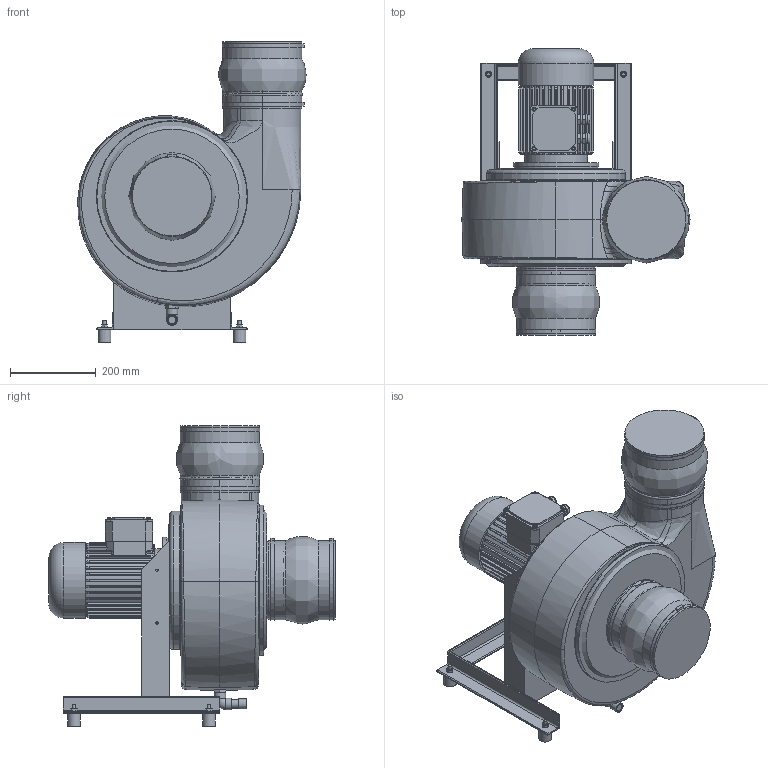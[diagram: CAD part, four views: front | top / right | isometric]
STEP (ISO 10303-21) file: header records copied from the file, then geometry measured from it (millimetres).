
FILE_DESCRIPTION( ( 'Unknown' ), '1' );
FILE_NAME( 'K:/HOME/HLT_CAD/Z/HF/3D/Zusammenstellung/HFR/HFR 15_17/HFR...-15D/DS_1/HFR_180-15D/GR360/HFR_180-15D_DS1_GR_360_090.stp', 'Unknown', ( 'Unknown' ), ( 'Unknown' ), 'PSStep 17.0.49', 'Unknown', ' ' );
FILE_SCHEMA( ( 'AUTOMOTIVE_DESIGN { 1 0 10303 214 1 1 1 1 }' ) );
Length unit declared in the file: millimetre
Products named in the file (30): 5294_Gestell; Angle 40x40x4-oa0; Angle 40x40x4-oa1; Angle 40x40x4-oa2; 5294_Gehäusebefestigung-oa3; 6203_Kugelmanschette; 6203_Manschettenband_HFR180; 6203_Schelle_HFR180; Laufrad 180; Nabe 160-315; Deckscheibe 180; 1108_18; 5217_Laufradbefestigung; 5217_Drehteil; 5217_Flachdichtung_Ø32; 5217_Schraubkappe; 5217_Flachdichtung_Ø63; 5159_Kondensatablauf_125-315; Winkel_90°_G1_2; Stopfen_G1_2-oa4; Rohr_20; Verschlusskappe_20; Assem1; 180 mit laufrad HF R 180; Schwidä_30x30; 6kant_M8; 6611_Motorring_Bg80; B5_90L_2HIHI; HFR 180_GR_abgeschn
Assembly tree (37 placements, depth 3):
  Assem1
    180 mit laufrad HF R 180
    Schwidä_30x30  x4
    6kant_M8  x4
    6611_Motorring_Bg80
    B5_90L_2HIHI
    HFR 180_GR_abgeschn
    5294_Gestell
      Angle 40x40x4-oa0
      Angle 40x40x4-oa1
      Angle 40x40x4-oa2
      5294_Gehäusebefestigung-oa3
    5159_Kondensatablauf_125-315
      Winkel_90°_G1_2
      Stopfen_G1_2-oa4
      Rohr_20
      Verschlusskappe_20
    6203_Kugelmanschette  x2
      6203_Manschettenband_HFR180
      6203_Schelle_HFR180
    Laufrad 180
      Nabe 160-315
      Laufrad 180
      Deckscheibe 180
      1108_18
    5217_Laufradbefestigung
      5217_Drehteil
      5217_Flachdichtung_Ø32
      5217_Schraubkappe
      5217_Flachdichtung_Ø63
Bounding box: 530.89 x 667 x 699.95 mm (x, y, z)
Volume: 59003996.2 mm3; surface area: 2603823 mm2
Topology: 34 solids, 34 shells, 1324 faces, 3212 edges, 2047 vertices
Faces by surface type: plane 737, cylinder 301, bspline 126, cone 120, torus 34, revolution 6
Full cylindrical faces by diameter (mm): 3.5 x3, 5.5 x4, 6.647 x9, 8 x14, 9 x2, 10 x4, 10.5 x1, 11 x12, 12 x5, 13 x9, 16 x2, 17 x1, 20 x4, 20.955 x1, 22.212 x1, 23 x1, 24 x5, 25 x1, 26.5 x2, 28.8 x1, 30 x4, 30.291 x1, 32 x1, 33.25 x1, 37 x1, 40 x1, 44 x1, 46 x1, 50 x1, 52 x1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
Entity records: 74964 total; most frequent: CARTESIAN_POINT 37156, ORIENTED_EDGE 5628, DIRECTION 5250, EDGE_CURVE 2814, AXIS2_PLACEMENT_3D 1929, VERTEX_POINT 1872, EDGE_LOOP 1572, LINE 1386
